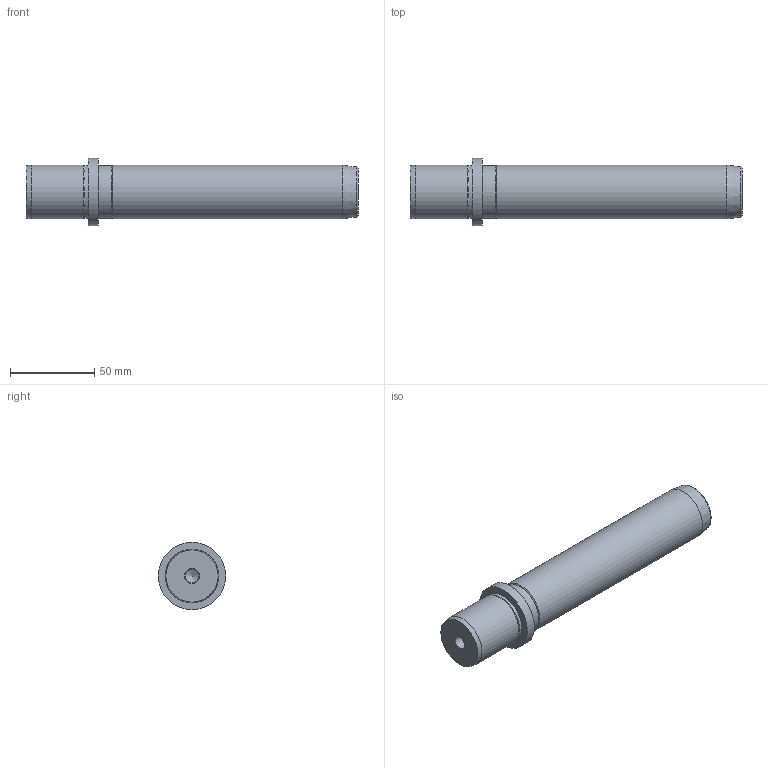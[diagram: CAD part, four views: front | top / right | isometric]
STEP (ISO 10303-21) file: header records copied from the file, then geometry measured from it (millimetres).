
FILE_DESCRIPTION(/* description */ ('Impex Ready, www.impex-ready.pl'),/* implementation_level */ '2;1');
FILE_NAME(/* name */ 'C:\Users\VIKKY\Nextcloud\SM\projekt 10 - części na stronę internetową\Pliki_3D_new\262 CEAQ Słup\262_CEAQ_STEP\CEAQ32160.ipt.step',/* time_stamp */ '2021-12-06T13:42:56+03:00',/* author */ ('SM'),/* organization */ (''),/* preprocessor_version */ 'ST-DEVELOPER v18.1',/* originating_system */ 'Autodesk Inventor 2021',/* authorisation */ '');
FILE_SCHEMA (('AUTOMOTIVE_DESIGN { 1 0 10303 214 3 1 1 }'));
Length unit declared in the file: millimetre
Products named in the file (1): CEAQ32160
Bounding box: 197 x 40 x 40 mm (x, y, z)
Volume: 157281.6 mm3; surface area: 23643.9 mm2
Topology: 1 solids, 1 shells, 20 faces, 38 edges, 22 vertices
Faces by surface type: cone 8, cylinder 7, plane 4, torus 1
Full cylindrical faces by diameter (mm): 8 x2, 31 x2, 32 x2, 40 x1
Entity records: 590 total; most frequent: DIRECTION 99, CARTESIAN_POINT 79, ORIENTED_EDGE 72, AXIS2_PLACEMENT_3D 42, EDGE_CURVE 36, EDGE_LOOP 24, VERTEX_POINT 22, CIRCLE 21
